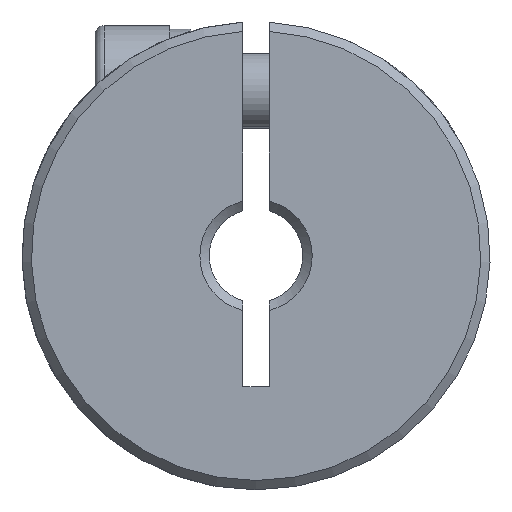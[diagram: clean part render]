
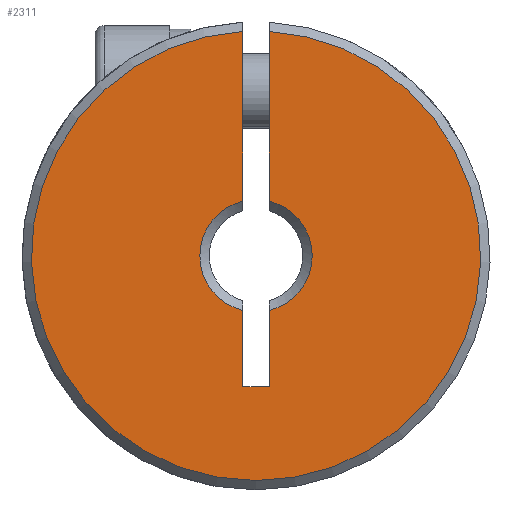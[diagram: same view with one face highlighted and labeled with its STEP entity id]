
A CAD part, front view. The second image highlights one B-rep face of the part: STEP entity #2311.
In plain terms, the highlighted planar face has unit normal (0, -1, 0).
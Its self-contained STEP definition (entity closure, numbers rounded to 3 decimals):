
#47 = CARTESIAN_POINT ( 'NONE',  ( -0.7, 0.25, -7. ) ) ;
#86 = ORIENTED_EDGE ( 'NONE', *, *, #744, .T. ) ;
#90 = CARTESIAN_POINT ( 'NONE',  ( -0.7, 0.25, -2.917 ) ) ;
#91 = ORIENTED_EDGE ( 'NONE', *, *, #1829, .F. ) ;
#185 = LINE ( 'NONE', #710, #1633 ) ;
#315 = AXIS2_PLACEMENT_3D ( 'NONE', #1964, #1674, #369 ) ;
#369 = DIRECTION ( 'NONE',  ( 0., 0., 1. ) ) ;
#372 = DIRECTION ( 'NONE',  ( 0., 0., -1. ) ) ;
#409 = ORIENTED_EDGE ( 'NONE', *, *, #1855, .T. ) ;
#420 = CARTESIAN_POINT ( 'NONE',  ( -0.7, 0.25, -7. ) ) ;
#439 = CIRCLE ( 'NONE', #315, 3. ) ;
#445 = EDGE_CURVE ( 'NONE', #1114, #1640, #3117, .T. ) ;
#448 = ORIENTED_EDGE ( 'NONE', *, *, #2482, .F. ) ;
#565 = VECTOR ( 'NONE', #372, 1000. ) ;
#643 = VECTOR ( 'NONE', #1758, 1000. ) ;
#710 = CARTESIAN_POINT ( 'NONE',  ( 0.7, 0.25, -7. ) ) ;
#717 = EDGE_CURVE ( 'NONE', #1640, #733, #2447, .T. ) ;
#733 = VERTEX_POINT ( 'NONE', #3450 ) ;
#744 = EDGE_CURVE ( 'NONE', #2890, #2755, #2228, .T. ) ;
#822 = DIRECTION ( 'NONE',  ( 0., 0., 1. ) ) ;
#1051 = CARTESIAN_POINT ( 'NONE',  ( 0., 0.25, 0. ) ) ;
#1098 = CARTESIAN_POINT ( 'NONE',  ( 0.7, 0.25, 2.917 ) ) ;
#1103 = ORIENTED_EDGE ( 'NONE', *, *, #717, .F. ) ;
#1107 = FACE_OUTER_BOUND ( 'NONE', #2308, .T. ) ;
#1114 = VERTEX_POINT ( 'NONE', #90 ) ;
#1361 = VERTEX_POINT ( 'NONE', #1098 ) ;
#1370 = CARTESIAN_POINT ( 'NONE',  ( 0.7, 0.25, 11.98 ) ) ;
#1414 = DIRECTION ( 'NONE',  ( 0., 1., 0. ) ) ;
#1512 = EDGE_CURVE ( 'NONE', #1361, #2365, #1803, .T. ) ;
#1548 = EDGE_CURVE ( 'NONE', #2890, #3168, #3280, .T. ) ;
#1570 = ORIENTED_EDGE ( 'NONE', *, *, #1512, .T. ) ;
#1603 = DIRECTION ( 'NONE',  ( 1., 0., 0. ) ) ;
#1630 = CARTESIAN_POINT ( 'NONE',  ( -0.7, 0.25, 2.917 ) ) ;
#1633 = VECTOR ( 'NONE', #2598, 1000. ) ;
#1637 = VECTOR ( 'NONE', #1904, 1000. ) ;
#1640 = VERTEX_POINT ( 'NONE', #420 ) ;
#1674 = DIRECTION ( 'NONE',  ( 0., 1., 0. ) ) ;
#1711 = AXIS2_PLACEMENT_3D ( 'NONE', #1889, #2645, #3200 ) ;
#1758 = DIRECTION ( 'NONE',  ( 0., 0., -1. ) ) ;
#1803 = CIRCLE ( 'NONE', #2948, 3. ) ;
#1829 = EDGE_CURVE ( 'NONE', #733, #2365, #185, .T. ) ;
#1855 = EDGE_CURVE ( 'NONE', #1114, #3168, #439, .T. ) ;
#1889 = CARTESIAN_POINT ( 'NONE',  ( 12.5, 0.25, -50. ) ) ;
#1904 = DIRECTION ( 'NONE',  ( 0., 0., 1. ) ) ;
#1922 = AXIS2_PLACEMENT_3D ( 'NONE', #1051, #3180, #822 ) ;
#1928 = CARTESIAN_POINT ( 'NONE',  ( 0., 0.25, 0. ) ) ;
#1964 = CARTESIAN_POINT ( 'NONE',  ( 0., 0.25, 0. ) ) ;
#2031 = ORIENTED_EDGE ( 'NONE', *, *, #1548, .F. ) ;
#2209 = DIRECTION ( 'NONE',  ( 0., 0., 1. ) ) ;
#2228 = CIRCLE ( 'NONE', #1922, 12. ) ;
#2308 = EDGE_LOOP ( 'NONE', ( #448, #1570, #91, #1103, #2465, #409, #2031, #86 ) ) ;
#2311 = ADVANCED_FACE ( 'NONE', ( #1107 ), #2656, .F. ) ;
#2359 = VECTOR ( 'NONE', #1603, 1000. ) ;
#2365 = VERTEX_POINT ( 'NONE', #2730 ) ;
#2447 = LINE ( 'NONE', #2952, #2359 ) ;
#2465 = ORIENTED_EDGE ( 'NONE', *, *, #445, .F. ) ;
#2482 = EDGE_CURVE ( 'NONE', #1361, #2755, #3292, .T. ) ;
#2541 = CARTESIAN_POINT ( 'NONE',  ( -0.7, 0.25, 11.98 ) ) ;
#2598 = DIRECTION ( 'NONE',  ( 0., 0., 1. ) ) ;
#2645 = DIRECTION ( 'NONE',  ( 0., 1., 0. ) ) ;
#2656 = PLANE ( 'NONE',  #1711 ) ;
#2730 = CARTESIAN_POINT ( 'NONE',  ( 0.7, 0.25, -2.917 ) ) ;
#2755 = VERTEX_POINT ( 'NONE', #1370 ) ;
#2805 = CARTESIAN_POINT ( 'NONE',  ( -0.7, 0.25, -7. ) ) ;
#2890 = VERTEX_POINT ( 'NONE', #2541 ) ;
#2948 = AXIS2_PLACEMENT_3D ( 'NONE', #1928, #1414, #2209 ) ;
#2952 = CARTESIAN_POINT ( 'NONE',  ( 0.7, 0.25, -7. ) ) ;
#3117 = LINE ( 'NONE', #47, #565 ) ;
#3168 = VERTEX_POINT ( 'NONE', #1630 ) ;
#3180 = DIRECTION ( 'NONE',  ( 0., -1., 0. ) ) ;
#3200 = DIRECTION ( 'NONE',  ( 0., 0., 1. ) ) ;
#3231 = CARTESIAN_POINT ( 'NONE',  ( 0.7, 0.25, -7. ) ) ;
#3280 = LINE ( 'NONE', #2805, #643 ) ;
#3292 = LINE ( 'NONE', #3231, #1637 ) ;
#3450 = CARTESIAN_POINT ( 'NONE',  ( 0.7, 0.25, -7. ) ) ;
